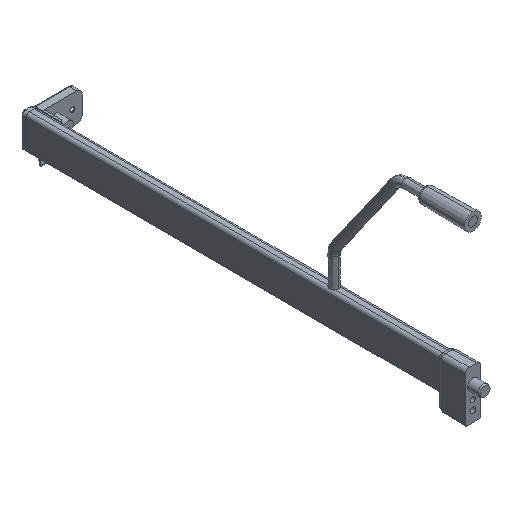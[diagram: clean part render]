
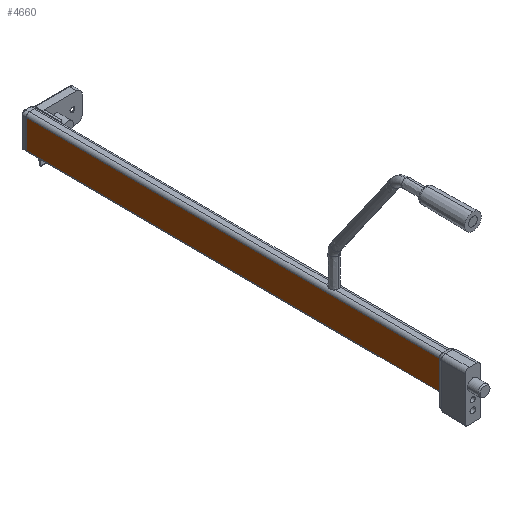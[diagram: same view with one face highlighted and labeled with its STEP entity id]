
A CAD part, isometric view. The second image highlights one B-rep face of the part: STEP entity #4660.
In plain terms, the highlighted planar face has unit normal (-1, 0, 0).
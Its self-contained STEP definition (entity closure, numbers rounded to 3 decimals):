
#295 = CARTESIAN_POINT ( 'NONE',  ( -5.25, 400.4, 12.2 ) ) ;
#308 = CARTESIAN_POINT ( 'NONE',  ( -5.25, 400.4, -13.801 ) ) ;
#312 = CARTESIAN_POINT ( 'NONE',  ( -5.25, 25., -15.5 ) ) ;
#865 = LINE ( 'NONE', #4062, #866 ) ;
#866 = VECTOR ( 'NONE', #4063, 1000. ) ;
#867 = LINE ( 'NONE', #4064, #868 ) ;
#868 = VECTOR ( 'NONE', #4065, 1000. ) ;
#871 = LINE ( 'NONE', #4072, #872 ) ;
#872 = VECTOR ( 'NONE', #4073, 1000. ) ;
#889 = LINE ( 'NONE', #2519, #890 ) ;
#890 = VECTOR ( 'NONE', #2520, 1000. ) ;
#1228 = FACE_OUTER_BOUND ( 'NONE', #1609, .T. ) ;
#1609 = EDGE_LOOP ( 'NONE', ( #2100, #2101, #2102, #2129 ) ) ;
#2100 = ORIENTED_EDGE ( 'NONE', *, *, #2852, .T. ) ;
#2101 = ORIENTED_EDGE ( 'NONE', *, *, #2867, .T. ) ;
#2102 = ORIENTED_EDGE ( 'NONE', *, *, #2851, .F. ) ;
#2129 = ORIENTED_EDGE ( 'NONE', *, *, #2855, .F. ) ;
#2179 = VERTEX_POINT ( 'NONE', #295 ) ;
#2192 = VERTEX_POINT ( 'NONE', #308 ) ;
#2196 = VERTEX_POINT ( 'NONE', #312 ) ;
#2519 = CARTESIAN_POINT ( 'NONE',  ( -5.25, 434.248, -13.647 ) ) ;
#2520 = DIRECTION ( 'NONE',  ( 0., -1., -0.005 ) ) ;
#2851 = EDGE_CURVE ( 'NONE', #3279, #2196, #865, .T. ) ;
#2852 = EDGE_CURVE ( 'NONE', #2179, #2192, #867, .T. ) ;
#2855 = EDGE_CURVE ( 'NONE', #2179, #3279, #871, .T. ) ;
#2867 = EDGE_CURVE ( 'NONE', #2192, #2196, #889, .T. ) ;
#3196 = AXIS2_PLACEMENT_3D ( 'NONE', #3526, #3527, #3528 ) ;
#3279 = VERTEX_POINT ( 'NONE', #3848 ) ;
#3525 = PLANE ( 'NONE',  #3196 ) ;
#3526 = CARTESIAN_POINT ( 'NONE',  ( -5.25, 434.248, -13.647 ) ) ;
#3527 = DIRECTION ( 'NONE',  ( 1., 0., 0. ) ) ;
#3528 = DIRECTION ( 'NONE',  ( 0., 0., -1. ) ) ;
#3848 = CARTESIAN_POINT ( 'NONE',  ( -5.25, 25., 10.5 ) ) ;
#4062 = CARTESIAN_POINT ( 'NONE',  ( -5.25, 25., 15. ) ) ;
#4063 = DIRECTION ( 'NONE',  ( 0., 0., -1. ) ) ;
#4064 = CARTESIAN_POINT ( 'NONE',  ( -5.25, 400.4, -13.647 ) ) ;
#4065 = DIRECTION ( 'NONE',  ( 0., 0., -1. ) ) ;
#4072 = CARTESIAN_POINT ( 'NONE',  ( -5.25, 434.13, 12.352 ) ) ;
#4073 = DIRECTION ( 'NONE',  ( 0., -1., -0.005 ) ) ;
#4660 = ADVANCED_FACE ( 'NONE', ( #1228 ), #3525, .F. ) ;
